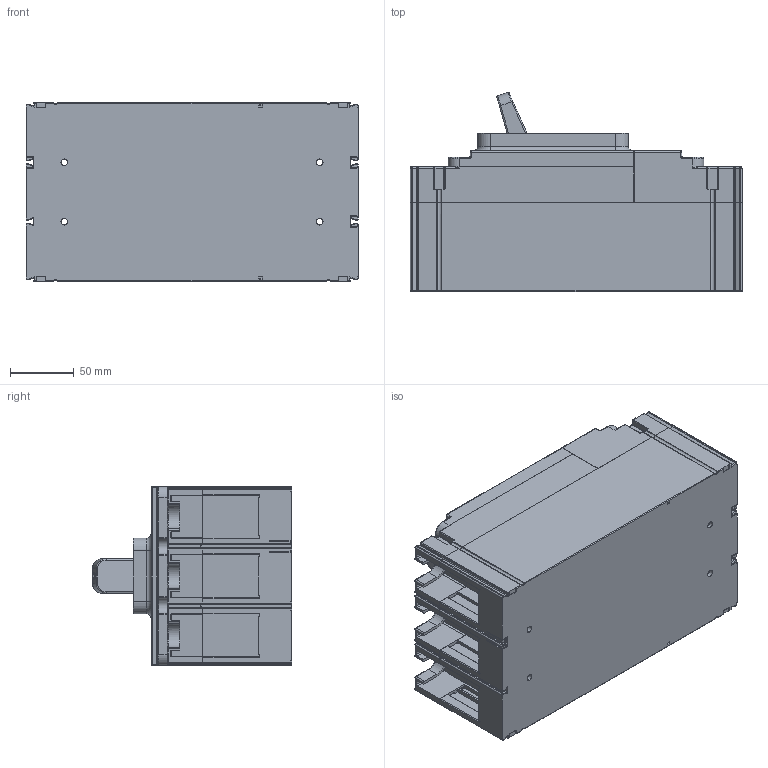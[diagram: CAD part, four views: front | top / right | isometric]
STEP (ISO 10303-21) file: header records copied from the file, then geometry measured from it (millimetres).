
FILE_DESCRIPTION((''),'2;1');
FILE_NAME('HGP630_3P_ASM','2016-09-08T',('HHI'),(''),'PRO/ENGINEER BY PARAMETRIC TECHNOLOGY CORPORATION, 2012453','PRO/ENGINEER BY PARAMETRIC TECHNOLOGY CORPORATION, 2012453','');
FILE_SCHEMA(('CONFIG_CONTROL_DESIGN'));
Products named in the file (17): U6_3P_BASE; U6_HANDLE; U6_ON_OFF_PRINT_HANDLE_ASSY_ASM_ASM; U6_3P_HANDLE_ASSY_ASM_ASM; U6_3P_MECHANISM_ASSY_ASM_ASM; U6_3P_MAIN_ASSY_ASM_ASM; U6_3P_MAIN_TOTAL_ASSY_ASM_ASM; U6_3P_630A_TOTAL_BASE_ASSY_ASM_ASM; U6_3P_MAIN_COVER; U6_3P_TRIP_COVER; U6_3P_630A_TOTAL_ASSY_ASM_ASM; U6_FRONT_COVER; U6_TRIP_BUTTON; U6_FRONT_COVER_ASSY_ASM_ASM; U6_HGP630X_PRINTED_COVER_ASSY_A_ASM; U6_HGP630X_630A_3P_40_JJ_ASM_ASM; HGP630_3P_ASM
Assembly tree (16 placements, depth 10):
  HGP630_3P_ASM
    U6_HGP630X_630A_3P_40_JJ_ASM_ASM
      U6_3P_630A_TOTAL_ASSY_ASM_ASM
        U6_3P_630A_TOTAL_BASE_ASSY_ASM_ASM
          U6_3P_BASE
          U6_3P_MAIN_TOTAL_ASSY_ASM_ASM
            U6_3P_MAIN_ASSY_ASM_ASM
              U6_3P_MECHANISM_ASSY_ASM_ASM
                U6_3P_HANDLE_ASSY_ASM_ASM
                  U6_ON_OFF_PRINT_HANDLE_ASSY_ASM_ASM
        U6_3P_MAIN_COVER
        U6_3P_TRIP_COVER
      U6_HGP630X_PRINTED_COVER_ASSY_A_ASM
        U6_FRONT_COVER_ASSY_ASM_ASM
          U6_FRONT_COVER
          U6_TRIP_BUTTON
Bounding box: 260 x 155.99 x 140 mm (x, y, z)
Volume: 3435198.7 mm3; surface area: 394950.8 mm2
Topology: 6 solids, 26 shells, 4302 faces, 11010 edges, 6492 vertices
Faces by surface type: cylinder 1834, plane 1257, torus 489, sphere 412, bspline 219, cone 72, extrusion 19
Entity records: 152064 total; most frequent: CARTESIAN_POINT 48674, DIRECTION 22745, ORIENTED_EDGE 21288, EDGE_CURVE 10644, AXIS2_PLACEMENT_3D 8824, VERTEX_POINT 6492, VECTOR 5097, LINE 5078
